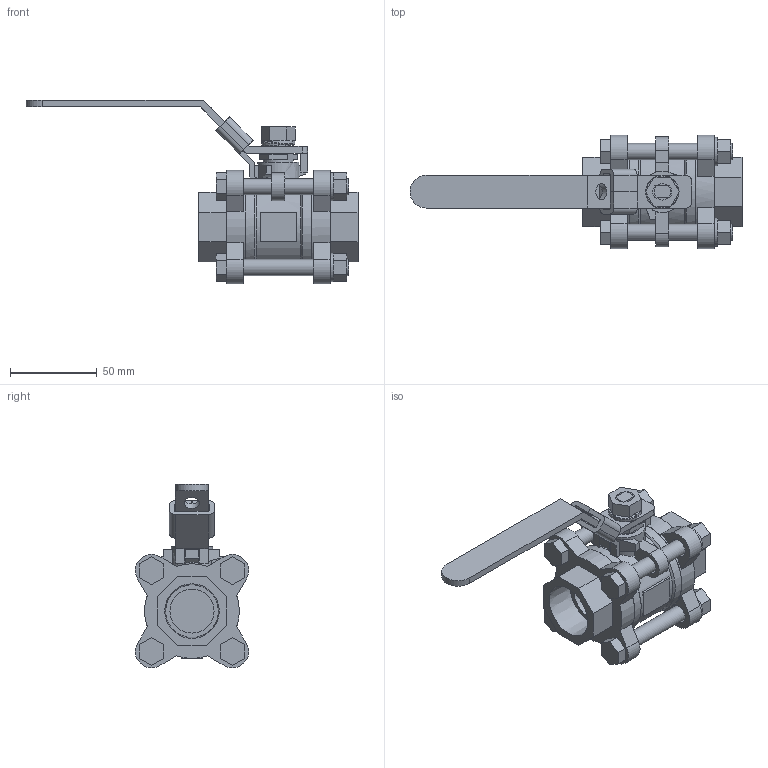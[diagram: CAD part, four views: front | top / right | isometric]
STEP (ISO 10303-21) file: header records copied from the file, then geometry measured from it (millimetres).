
FILE_DESCRIPTION((' '),'2;1');
FILE_NAME('N:\Technical Support\Private\Jomar Valve CAD\Ball Valves\CS and SS\1000N-4B\1.0 T-CS[SS]-1000N-4B (500-405 [500-305])FusionCopy.stp.step','2017-01-13T16:11:38',(' '),(' '),' ','ACIS',' ');
FILE_SCHEMA(('CONFIG_CONTROL_DESIGN'));
Length unit declared in the file: inch
Products named in the file (22): N:\Technical Support\Private\Jomar Valve CAD\Ball Valves\CS and SS\1000N-4B\1.0 T-CS[SS]-1000N-4B (500-405 [500-305])FusionCopy.stp.step; Body1; Body2; Body3; Body4; Body5; Body6; Body7; Body8; Body9; Body10; Body11; Body12; Body13; Body14; Body15; Body16; Body17; Body18; Body19; Body20; Body21
Assembly tree (21 placements, depth 2):
  N:\Technical Support\Private\Jomar Valve CAD\Ball Valves\CS and SS\1000N-4B\1.0 T-CS[SS]-1000N-4B (500-405 [500-305])FusionCopy.stp.step
    Body1
    Body2
    Body3
    Body4
    Body5
    Body6
    Body7
    Body8
    Body9
    Body10
    Body11
    Body12
    Body13
    Body14
    Body15
    Body16
    Body17
    Body18
    Body19
    Body20
    Body21
Bounding box: 191.52 x 65.39 x 105.88 mm (x, y, z)
Volume: 213687.4 mm3; surface area: 72047.6 mm2
Topology: 21 solids, 21 shells, 330 faces, 806 edges, 530 vertices
Faces by surface type: plane 152, bspline 116, cylinder 42, cone 12, torus 8
Full cylindrical faces by diameter (mm): 8.001 x2, 9.017 x1, 9.347 x2, 9.525 x1, 10.033 x2, 10.922 x6, 11.963 x2, 16.383 x2, 17.475 x1, 25.4 x1, 54.356 x1, 54.61 x1
Entity records: 12997 total; most frequent: CARTESIAN_POINT 2385, ORIENTED_EDGE 1514, DIRECTION 1466, EDGE_CURVE 757, VECTOR 542, LINE 542, VERTEX_POINT 521, AXIS2_PLACEMENT_3D 462
